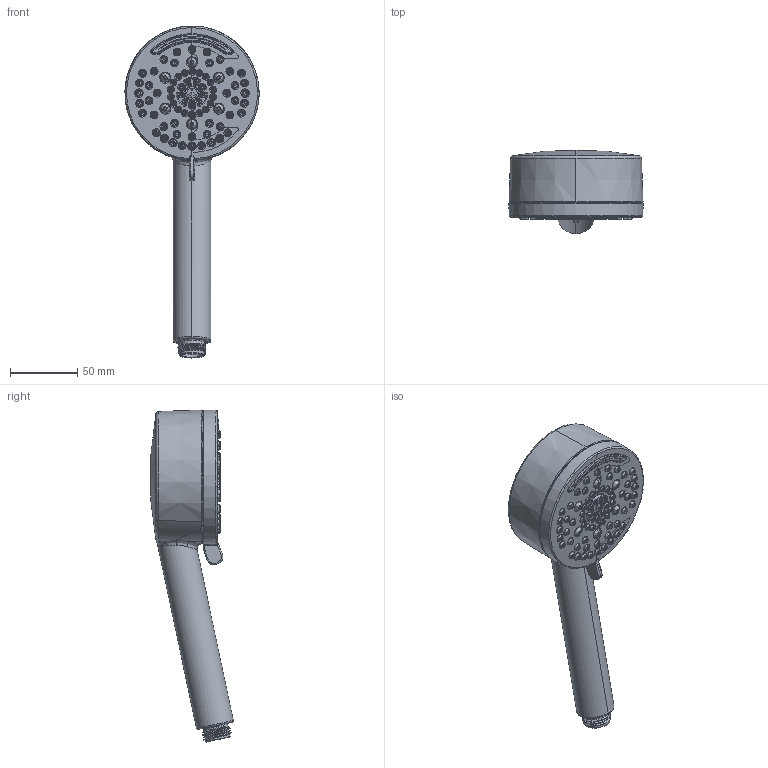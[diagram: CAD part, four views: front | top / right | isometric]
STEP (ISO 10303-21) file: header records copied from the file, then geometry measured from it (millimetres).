
FILE_DESCRIPTION (( 'STEP AP214' ), '1' );
FILE_NAME ('482W7.STEP', '2025-01-07T07:32:03', ( '' ), ( '' ), 'SwSTEP 2.0', 'SolidWorks 2023', '' );
FILE_SCHEMA (( 'AUTOMOTIVE_DESIGN' ));
Length unit declared in the file: inch
Products named in the file (1): 482W7
Bounding box: 99.92 x 61.58 x 247.12 mm (x, y, z)
Surface area: 60432.8 mm2 (no closed solid volume)
Topology: 0 solids, 91 shells, 1256 faces, 4036 edges, 2845 vertices
Faces by surface type: bspline 590, cone 476, plane 104, torus 36, cylinder 30, sphere 20
Entity records: 185479 total; most frequent: CARTESIAN_POINT 156503, ORIENTED_EDGE 6441, DIRECTION 4055, EDGE_CURVE 4036, VERTEX_POINT 2845, B_SPLINE_CURVE_WITH_KNOTS 2247, AXIS2_PLACEMENT_3D 1614, EDGE_LOOP 1490
